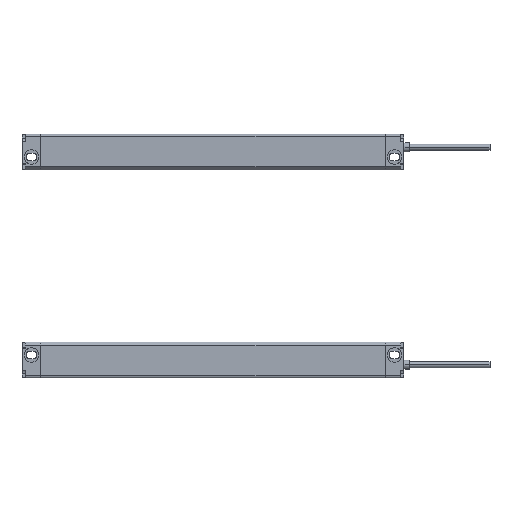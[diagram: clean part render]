
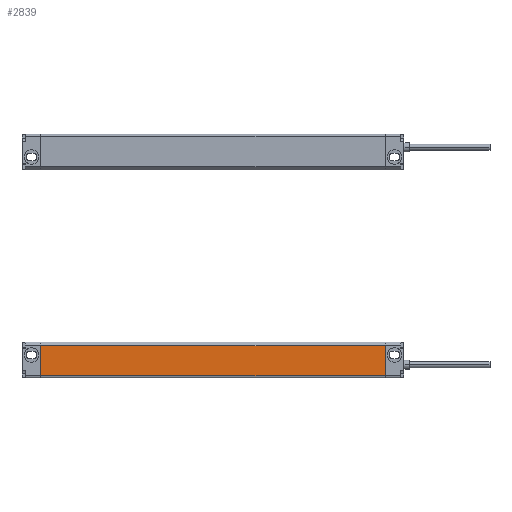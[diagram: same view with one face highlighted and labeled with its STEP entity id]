
A CAD part, left-side view. The second image highlights one B-rep face of the part: STEP entity #2839.
In plain terms, the highlighted planar face has unit normal (-1, 0, 0).
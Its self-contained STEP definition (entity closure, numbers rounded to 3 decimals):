
#81 = EDGE_CURVE ( 'NONE', #1217, #5359, #2389, .T. ) ;
#84 = ORIENTED_EDGE ( 'NONE', *, *, #10115, .T. ) ;
#206 = AXIS2_PLACEMENT_3D ( 'NONE', #8654, #4462, #8693 ) ;
#223 = VECTOR ( 'NONE', #9003, 1000. ) ;
#764 = LINE ( 'NONE', #6291, #6345 ) ;
#1190 = CARTESIAN_POINT ( 'NONE',  ( -12.5, -200., 8.293 ) ) ;
#1217 = VERTEX_POINT ( 'NONE', #10641 ) ;
#1355 = EDGE_LOOP ( 'NONE', ( #5947, #9474, #6487, #84 ) ) ;
#1525 = VECTOR ( 'NONE', #8720, 1000. ) ;
#1901 = PLANE ( 'NONE',  #206 ) ;
#2389 = LINE ( 'NONE', #2556, #9366 ) ;
#2556 = CARTESIAN_POINT ( 'NONE',  ( -12.5, -200., -9.2 ) ) ;
#2839 = ADVANCED_FACE ( 'NONE', ( #4685 ), #1901, .T. ) ;
#3148 = CARTESIAN_POINT ( 'NONE',  ( -12.5, -200., -9.2 ) ) ;
#4077 = CARTESIAN_POINT ( 'NONE',  ( -12.5, 0., 8.293 ) ) ;
#4462 = DIRECTION ( 'NONE',  ( -1., 0., 0. ) ) ;
#4476 = EDGE_CURVE ( 'NONE', #8085, #6149, #764, .T. ) ;
#4685 = FACE_OUTER_BOUND ( 'NONE', #1355, .T. ) ;
#5359 = VERTEX_POINT ( 'NONE', #10819 ) ;
#5452 = DIRECTION ( 'NONE',  ( 0., 0., 1. ) ) ;
#5947 = ORIENTED_EDGE ( 'NONE', *, *, #4476, .F. ) ;
#6149 = VERTEX_POINT ( 'NONE', #4077 ) ;
#6291 = CARTESIAN_POINT ( 'NONE',  ( -12.5, 0., -9.2 ) ) ;
#6345 = VECTOR ( 'NONE', #5452, 1000. ) ;
#6487 = ORIENTED_EDGE ( 'NONE', *, *, #81, .T. ) ;
#7975 = CARTESIAN_POINT ( 'NONE',  ( -12.5, 0., -9.2 ) ) ;
#8085 = VERTEX_POINT ( 'NONE', #7975 ) ;
#8654 = CARTESIAN_POINT ( 'NONE',  ( -12.5, -200., -9.2 ) ) ;
#8693 = DIRECTION ( 'NONE',  ( 0., 0., 1. ) ) ;
#8720 = DIRECTION ( 'NONE',  ( 0., 1., 0. ) ) ;
#8880 = EDGE_CURVE ( 'NONE', #1217, #8085, #9177, .T. ) ;
#9003 = DIRECTION ( 'NONE',  ( 0., 1., 0. ) ) ;
#9177 = LINE ( 'NONE', #3148, #223 ) ;
#9366 = VECTOR ( 'NONE', #9372, 1000. ) ;
#9372 = DIRECTION ( 'NONE',  ( 0., 0., 1. ) ) ;
#9474 = ORIENTED_EDGE ( 'NONE', *, *, #8880, .F. ) ;
#9964 = LINE ( 'NONE', #1190, #1525 ) ;
#10115 = EDGE_CURVE ( 'NONE', #5359, #6149, #9964, .T. ) ;
#10641 = CARTESIAN_POINT ( 'NONE',  ( -12.5, -200., -9.2 ) ) ;
#10819 = CARTESIAN_POINT ( 'NONE',  ( -12.5, -200., 8.293 ) ) ;
